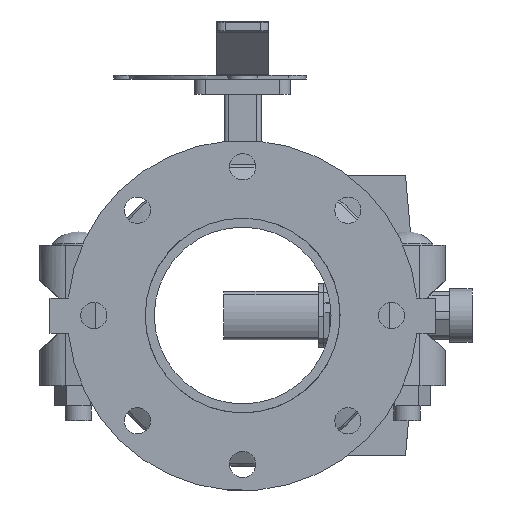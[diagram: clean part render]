
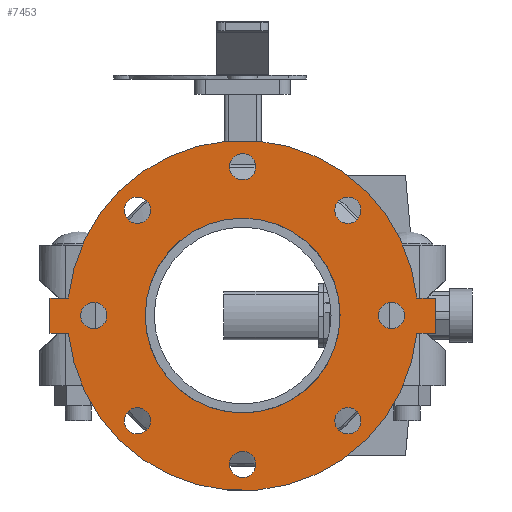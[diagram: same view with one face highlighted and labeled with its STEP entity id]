
A CAD part, front view. The second image highlights one B-rep face of the part: STEP entity #7453.
In plain terms, the highlighted planar face has unit normal (0, -1, 0) as drawn and (0, 0, -1) by its records, which use the part's own axes.
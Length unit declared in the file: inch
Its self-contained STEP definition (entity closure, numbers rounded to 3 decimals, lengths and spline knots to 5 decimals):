
#201=FACE_BOUND('',#950,.T.);
#202=FACE_BOUND('',#951,.T.);
#203=FACE_BOUND('',#952,.T.);
#204=FACE_BOUND('',#953,.T.);
#205=FACE_BOUND('',#954,.T.);
#206=FACE_BOUND('',#955,.T.);
#207=FACE_BOUND('',#956,.T.);
#208=FACE_BOUND('',#957,.T.);
#209=FACE_BOUND('',#958,.T.);
#299=PLANE('',#8085);
#540=FACE_OUTER_BOUND('',#949,.T.);
#949=EDGE_LOOP('',(#4795,#4796,#4797,#4798,#4799,#4800,#4801,#4802));
#950=EDGE_LOOP('',(#4803));
#951=EDGE_LOOP('',(#4804));
#952=EDGE_LOOP('',(#4805));
#953=EDGE_LOOP('',(#4806));
#954=EDGE_LOOP('',(#4807));
#955=EDGE_LOOP('',(#4808));
#956=EDGE_LOOP('',(#4809));
#957=EDGE_LOOP('',(#4810));
#958=EDGE_LOOP('',(#4811,#4812));
#1456=LINE('',#11362,#2013);
#1457=LINE('',#11364,#2014);
#1458=LINE('',#11366,#2015);
#1459=LINE('',#11370,#2016);
#1460=LINE('',#11372,#2017);
#1461=LINE('',#11373,#2018);
#2013=VECTOR('',#9020,0.3937);
#2014=VECTOR('',#9021,0.3937);
#2015=VECTOR('',#9022,0.3937);
#2016=VECTOR('',#9025,0.3937);
#2017=VECTOR('',#9026,0.3937);
#2018=VECTOR('',#9027,0.3937);
#2563=CIRCLE('',#8063,0.375);
#2565=CIRCLE('',#8066,0.375);
#2567=CIRCLE('',#8069,0.375);
#2569=CIRCLE('',#8072,0.375);
#2571=CIRCLE('',#8075,0.375);
#2573=CIRCLE('',#8078,0.375);
#2575=CIRCLE('',#8081,0.375);
#2577=CIRCLE('',#8084,0.375);
#2578=CIRCLE('',#8086,5.);
#2579=CIRCLE('',#8087,5.);
#2580=CIRCLE('',#8088,2.7815);
#2581=CIRCLE('',#8089,2.7815);
#2995=VERTEX_POINT('',#11312);
#2997=VERTEX_POINT('',#11318);
#2999=VERTEX_POINT('',#11324);
#3001=VERTEX_POINT('',#11330);
#3003=VERTEX_POINT('',#11336);
#3005=VERTEX_POINT('',#11342);
#3007=VERTEX_POINT('',#11348);
#3009=VERTEX_POINT('',#11354);
#3010=VERTEX_POINT('',#11358);
#3011=VERTEX_POINT('',#11359);
#3012=VERTEX_POINT('',#11361);
#3013=VERTEX_POINT('',#11363);
#3014=VERTEX_POINT('',#11365);
#3015=VERTEX_POINT('',#11367);
#3016=VERTEX_POINT('',#11369);
#3017=VERTEX_POINT('',#11371);
#3018=VERTEX_POINT('',#11374);
#3019=VERTEX_POINT('',#11375);
#3708=EDGE_CURVE('',#2995,#2995,#2563,.T.);
#3711=EDGE_CURVE('',#2997,#2997,#2565,.T.);
#3714=EDGE_CURVE('',#2999,#2999,#2567,.T.);
#3717=EDGE_CURVE('',#3001,#3001,#2569,.T.);
#3720=EDGE_CURVE('',#3003,#3003,#2571,.T.);
#3723=EDGE_CURVE('',#3005,#3005,#2573,.T.);
#3726=EDGE_CURVE('',#3007,#3007,#2575,.T.);
#3729=EDGE_CURVE('',#3009,#3009,#2577,.T.);
#3730=EDGE_CURVE('',#3010,#3011,#2578,.T.);
#3731=EDGE_CURVE('',#3011,#3012,#1456,.T.);
#3732=EDGE_CURVE('',#3012,#3013,#1457,.T.);
#3733=EDGE_CURVE('',#3013,#3014,#1458,.T.);
#3734=EDGE_CURVE('',#3014,#3015,#2579,.T.);
#3735=EDGE_CURVE('',#3015,#3016,#1459,.T.);
#3736=EDGE_CURVE('',#3016,#3017,#1460,.T.);
#3737=EDGE_CURVE('',#3017,#3010,#1461,.T.);
#3738=EDGE_CURVE('',#3018,#3019,#2580,.T.);
#3739=EDGE_CURVE('',#3019,#3018,#2581,.T.);
#4795=ORIENTED_EDGE('',*,*,#3730,.T.);
#4796=ORIENTED_EDGE('',*,*,#3731,.T.);
#4797=ORIENTED_EDGE('',*,*,#3732,.T.);
#4798=ORIENTED_EDGE('',*,*,#3733,.T.);
#4799=ORIENTED_EDGE('',*,*,#3734,.T.);
#4800=ORIENTED_EDGE('',*,*,#3735,.T.);
#4801=ORIENTED_EDGE('',*,*,#3736,.T.);
#4802=ORIENTED_EDGE('',*,*,#3737,.T.);
#4803=ORIENTED_EDGE('',*,*,#3708,.T.);
#4804=ORIENTED_EDGE('',*,*,#3711,.T.);
#4805=ORIENTED_EDGE('',*,*,#3714,.T.);
#4806=ORIENTED_EDGE('',*,*,#3717,.T.);
#4807=ORIENTED_EDGE('',*,*,#3720,.T.);
#4808=ORIENTED_EDGE('',*,*,#3723,.T.);
#4809=ORIENTED_EDGE('',*,*,#3726,.T.);
#4810=ORIENTED_EDGE('',*,*,#3729,.T.);
#4811=ORIENTED_EDGE('',*,*,#3738,.T.);
#4812=ORIENTED_EDGE('',*,*,#3739,.T.);
#7453=ADVANCED_FACE('',(#540,#201,#202,#203,#204,#205,#206,#207,#208,#209),
#299,.T.);
#8063=AXIS2_PLACEMENT_3D('',#11314,#8965,#8966);
#8066=AXIS2_PLACEMENT_3D('',#11320,#8972,#8973);
#8069=AXIS2_PLACEMENT_3D('',#11326,#8979,#8980);
#8072=AXIS2_PLACEMENT_3D('',#11332,#8986,#8987);
#8075=AXIS2_PLACEMENT_3D('',#11338,#8993,#8994);
#8078=AXIS2_PLACEMENT_3D('',#11344,#9000,#9001);
#8081=AXIS2_PLACEMENT_3D('',#11350,#9007,#9008);
#8084=AXIS2_PLACEMENT_3D('',#11356,#9014,#9015);
#8085=AXIS2_PLACEMENT_3D('',#11357,#9016,#9017);
#8086=AXIS2_PLACEMENT_3D('',#11360,#9018,#9019);
#8087=AXIS2_PLACEMENT_3D('',#11368,#9023,#9024);
#8088=AXIS2_PLACEMENT_3D('',#11376,#9028,#9029);
#8089=AXIS2_PLACEMENT_3D('',#11377,#9030,#9031);
#8965=DIRECTION('center_axis',(0.,0.,1.));
#8966=DIRECTION('ref_axis',(-0.707,0.707,0.));
#8972=DIRECTION('center_axis',(0.,0.,1.));
#8973=DIRECTION('ref_axis',(0.,1.,0.));
#8979=DIRECTION('center_axis',(0.,0.,1.));
#8980=DIRECTION('ref_axis',(0.707,0.707,0.));
#8986=DIRECTION('center_axis',(0.,0.,1.));
#8987=DIRECTION('ref_axis',(1.,0.,0.));
#8993=DIRECTION('center_axis',(0.,0.,1.));
#8994=DIRECTION('ref_axis',(0.707,-0.707,0.));
#9000=DIRECTION('center_axis',(0.,0.,1.));
#9001=DIRECTION('ref_axis',(0.,-1.,0.));
#9007=DIRECTION('center_axis',(0.,0.,1.));
#9008=DIRECTION('ref_axis',(-0.707,-0.707,0.));
#9014=DIRECTION('center_axis',(0.,0.,1.));
#9015=DIRECTION('ref_axis',(-1.,0.,0.));
#9016=DIRECTION('center_axis',(0.,0.,-1.));
#9017=DIRECTION('ref_axis',(-1.,0.,0.));
#9018=DIRECTION('center_axis',(0.,0.,-1.));
#9019=DIRECTION('ref_axis',(-1.,0.,0.));
#9020=DIRECTION('',(0.,1.,0.));
#9021=DIRECTION('',(1.,0.,0.));
#9022=DIRECTION('',(0.,-1.,0.));
#9023=DIRECTION('center_axis',(0.,0.,-1.));
#9024=DIRECTION('ref_axis',(-1.,0.,0.));
#9025=DIRECTION('',(0.,-1.,0.));
#9026=DIRECTION('',(-1.,0.,0.));
#9027=DIRECTION('',(0.,1.,0.));
#9028=DIRECTION('center_axis',(0.,0.,1.));
#9029=DIRECTION('ref_axis',(-1.,0.,0.));
#9030=DIRECTION('center_axis',(0.,0.,1.));
#9031=DIRECTION('ref_axis',(-1.,0.,0.));
#11312=CARTESIAN_POINT('',(-2.74004,2.74004,-0.5));
#11314=CARTESIAN_POINT('Origin',(-3.0052,3.0052,-0.5));
#11318=CARTESIAN_POINT('',(0.,3.875,-0.5));
#11320=CARTESIAN_POINT('Origin',(0.,4.25,-0.5));
#11324=CARTESIAN_POINT('',(2.74004,2.74004,-0.5));
#11326=CARTESIAN_POINT('Origin',(3.0052,3.0052,-0.5));
#11330=CARTESIAN_POINT('',(3.875,0.,-0.5));
#11332=CARTESIAN_POINT('Origin',(4.25,0.,-0.5));
#11336=CARTESIAN_POINT('',(2.74004,-2.74004,-0.5));
#11338=CARTESIAN_POINT('Origin',(3.0052,-3.0052,-0.5));
#11342=CARTESIAN_POINT('',(0.,-3.875,-0.5));
#11344=CARTESIAN_POINT('Origin',(0.,-4.25,-0.5));
#11348=CARTESIAN_POINT('',(-2.74004,-2.74004,-0.5));
#11350=CARTESIAN_POINT('Origin',(-3.0052,-3.0052,-0.5));
#11354=CARTESIAN_POINT('',(-3.875,0.,-0.5));
#11356=CARTESIAN_POINT('Origin',(-4.25,0.,-0.5));
#11357=CARTESIAN_POINT('Origin',(0.,0.,-0.5));
#11358=CARTESIAN_POINT('',(-0.5,-4.97494,-0.5));
#11359=CARTESIAN_POINT('',(-0.5,4.97494,-0.5));
#11360=CARTESIAN_POINT('Origin',(0.,0.,-0.5));
#11361=CARTESIAN_POINT('',(-0.5,5.5,-0.5));
#11362=CARTESIAN_POINT('',(-0.5,-5.5,-0.5));
#11363=CARTESIAN_POINT('',(0.5,5.5,-0.5));
#11364=CARTESIAN_POINT('',(-0.5,5.5,-0.5));
#11365=CARTESIAN_POINT('',(0.5,4.97494,-0.5));
#11366=CARTESIAN_POINT('',(0.5,5.5,-0.5));
#11367=CARTESIAN_POINT('',(0.5,-4.97494,-0.5));
#11368=CARTESIAN_POINT('Origin',(0.,0.,-0.5));
#11369=CARTESIAN_POINT('',(0.5,-5.5,-0.5));
#11370=CARTESIAN_POINT('',(0.5,5.5,-0.5));
#11371=CARTESIAN_POINT('',(-0.5,-5.5,-0.5));
#11372=CARTESIAN_POINT('',(0.5,-5.5,-0.5));
#11373=CARTESIAN_POINT('',(-0.5,-5.5,-0.5));
#11374=CARTESIAN_POINT('',(0.5,2.73619,-0.5));
#11375=CARTESIAN_POINT('',(2.7815,0.,-0.5));
#11376=CARTESIAN_POINT('Origin',(0.,0.,-0.5));
#11377=CARTESIAN_POINT('Origin',(0.,0.,-0.5));
